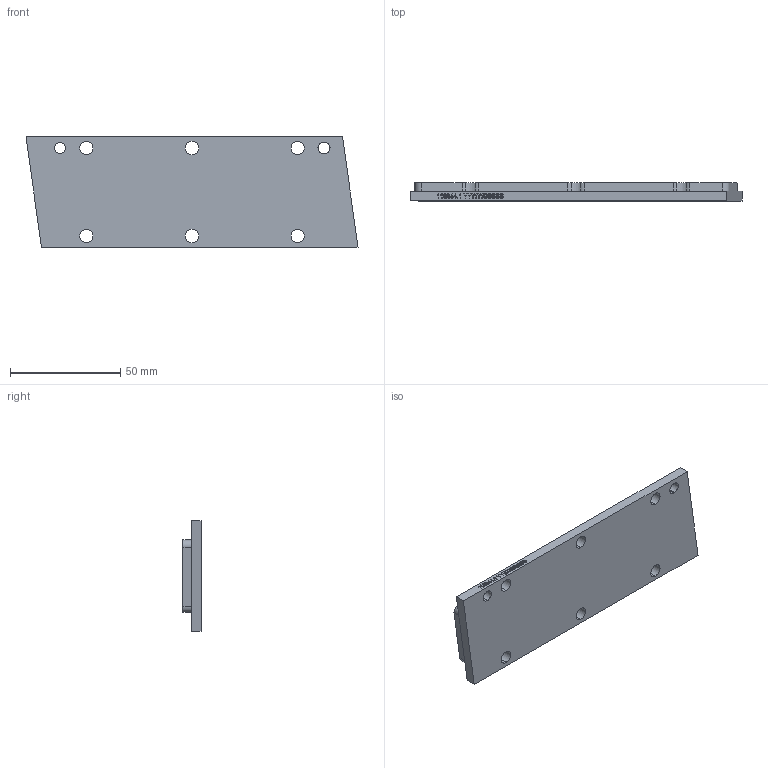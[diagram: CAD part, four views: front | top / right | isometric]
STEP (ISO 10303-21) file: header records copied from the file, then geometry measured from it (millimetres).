
FILE_DESCRIPTION (( 'STEP AP214' ), '1' );
FILE_NAME ('Cast T magnet plate TMX 144.STEP', '2023-03-30T12:45:02', ( '' ), ( '' ), 'SwSTEP 2.0', 'SolidWorks 2020', '' );
FILE_SCHEMA (( 'AUTOMOTIVE_DESIGN' ));
Length unit declared in the file: millimetre
Products named in the file (4): ResinTMX144 rectangle_Resin; Cast T magnet plate TMX 144; Glued T magnet plate TMX 144; closing plate TMX 144_with engraving
Assembly tree (3 placements, depth 3):
  Cast T magnet plate TMX 144
    Glued T magnet plate TMX 144
      closing plate TMX 144_with engraving
    ResinTMX144 rectangle_Resin
Bounding box: 150.88 x 8.2 x 50 mm (x, y, z)
Volume: 48736.2 mm3; surface area: 27037.1 mm2
Topology: 2 solids, 2 shells, 304 faces, 837 edges, 558 vertices
Faces by surface type: plane 146, bspline 117, cylinder 41
Entity records: 15729 total; most frequent: CARTESIAN_POINT 8543, ORIENTED_EDGE 1674, DIRECTION 1073, EDGE_CURVE 837, VERTEX_POINT 558, VECTOR 521, LINE 521, EDGE_LOOP 341
